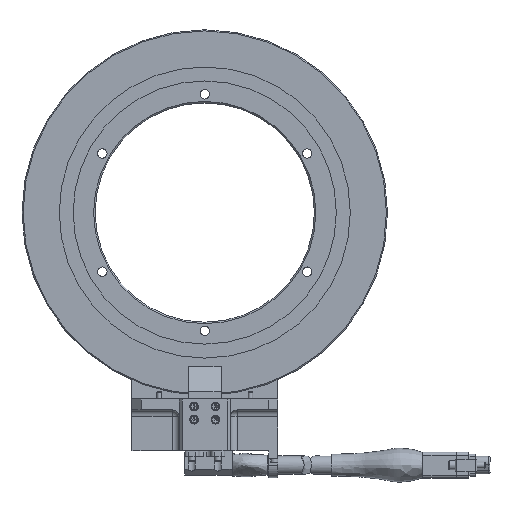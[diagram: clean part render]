
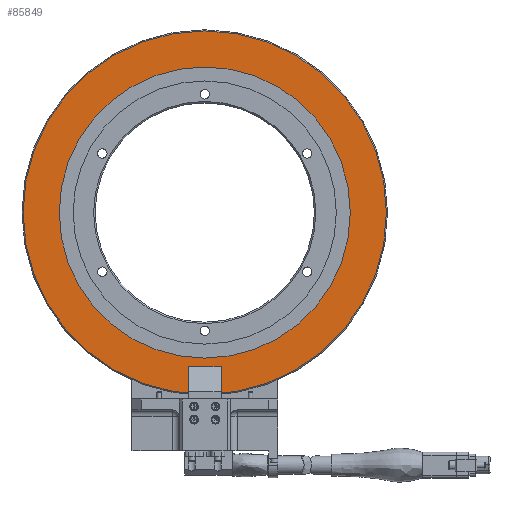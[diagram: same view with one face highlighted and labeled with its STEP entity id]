
A CAD part, front view. The second image highlights one B-rep face of the part: STEP entity #85849.
In plain terms, the highlighted planar face has unit normal (0, -1, 0).
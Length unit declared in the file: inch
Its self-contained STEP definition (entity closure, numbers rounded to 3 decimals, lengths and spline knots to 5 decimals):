
#1584 = VERTEX_POINT ( 'NONE', #8943 ) ;
#8250 = CARTESIAN_POINT ( 'NONE',  ( 0., 0.088, 0. ) ) ;
#8943 = CARTESIAN_POINT ( 'NONE',  ( 0., 0.088, 1.991 ) ) ;
#10250 = ORIENTED_EDGE ( 'NONE', *, *, #34345, .T. ) ;
#12008 = EDGE_CURVE ( 'NONE', #71015, #71015, #90950, .T. ) ;
#18867 = DIRECTION ( 'NONE',  ( 0., 1., 0. ) ) ;
#30164 = ORIENTED_EDGE ( 'NONE', *, *, #12008, .T. ) ;
#31707 = CARTESIAN_POINT ( 'NONE',  ( 0., 0.088, 0. ) ) ;
#34345 = EDGE_CURVE ( 'NONE', #1584, #1584, #61208, .T. ) ;
#36145 = CARTESIAN_POINT ( 'NONE',  ( 2.485, 0.088, 0. ) ) ;
#39845 = AXIS2_PLACEMENT_3D ( 'NONE', #31707, #18867, #54124 ) ;
#43777 = EDGE_LOOP ( 'NONE', ( #10250 ) ) ;
#49074 = CARTESIAN_POINT ( 'NONE',  ( 0., 0.088, 0. ) ) ;
#54124 = DIRECTION ( 'NONE',  ( 1., 0., 0. ) ) ;
#61208 = CIRCLE ( 'NONE', #67099, 1.991 ) ;
#64210 = DIRECTION ( 'NONE',  ( 1., 0., 0. ) ) ;
#65122 = DIRECTION ( 'NONE',  ( 0., 0., 1. ) ) ;
#66000 = AXIS2_PLACEMENT_3D ( 'NONE', #8250, #70631, #64210 ) ;
#67099 = AXIS2_PLACEMENT_3D ( 'NONE', #49074, #70189, #65122 ) ;
#70189 = DIRECTION ( 'NONE',  ( 0., 1., 0. ) ) ;
#70631 = DIRECTION ( 'NONE',  ( 0., -1., 0. ) ) ;
#71015 = VERTEX_POINT ( 'NONE', #36145 ) ;
#81329 = FACE_BOUND ( 'NONE', #43777, .T. ) ;
#81780 = PLANE ( 'NONE',  #39845 ) ;
#85849 = ADVANCED_FACE ( 'NONE', ( #87338, #81329 ), #81780, .F. ) ;
#87338 = FACE_OUTER_BOUND ( 'NONE', #87383, .T. ) ;
#87383 = EDGE_LOOP ( 'NONE', ( #30164 ) ) ;
#90950 = CIRCLE ( 'NONE', #66000, 2.485 ) ;
